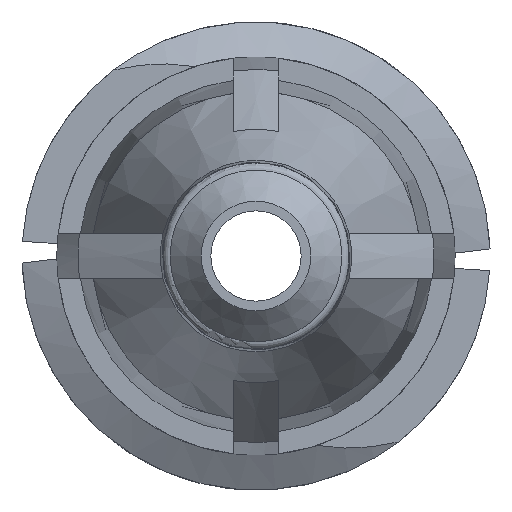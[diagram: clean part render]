
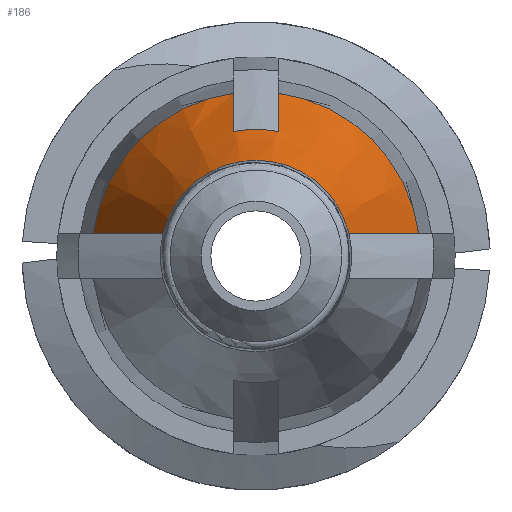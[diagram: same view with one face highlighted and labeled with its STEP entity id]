
A CAD part, front view. The second image highlights one B-rep face of the part: STEP entity #186.
In plain terms, the highlighted conical face has half-angle 20 degrees and reference radius 2.745 mm.
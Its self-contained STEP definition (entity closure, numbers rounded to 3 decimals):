
#3 = EDGE_CURVE ( 'NONE', #1640, #86, #1194, .T. ) ;
#22 = CARTESIAN_POINT ( 'NONE',  ( 0.381, -12.038, 2.082 ) ) ;
#55 = CIRCLE ( 'NONE', #841, 2.745 ) ;
#77 = ORIENTED_EDGE ( 'NONE', *, *, #696, .T. ) ;
#86 = VERTEX_POINT ( 'NONE', #22 ) ;
#90 = ORIENTED_EDGE ( 'NONE', *, *, #491, .T. ) ;
#178 = DIRECTION ( 'NONE',  ( 1., 0., 0. ) ) ;
#186 = ADVANCED_FACE ( 'NONE', ( #1937 ), #1730, .T. ) ;
#194 = DIRECTION ( 'NONE',  ( 0., -1., 0. ) ) ;
#255 = CARTESIAN_POINT ( 'NONE',  ( -2.719, -10.312, 0.381 ) ) ;
#268 = VERTEX_POINT ( 'NONE', #1324 ) ;
#283 = VERTEX_POINT ( 'NONE', #917 ) ;
#305 = CARTESIAN_POINT ( 'NONE',  ( -2.333, -11.362, 0.381 ) ) ;
#329 = ORIENTED_EDGE ( 'NONE', *, *, #1868, .T. ) ;
#359 = CIRCLE ( 'NONE', #635, 1.6 ) ;
#491 = EDGE_CURVE ( 'NONE', #851, #268, #1405, .T. ) ;
#509 = AXIS2_PLACEMENT_3D ( 'NONE', #699, #1826, #1042 ) ;
#548 = EDGE_LOOP ( 'NONE', ( #1920, #643, #777, #77, #919, #1190, #90, #329 ) ) ;
#549 = CARTESIAN_POINT ( 'NONE',  ( -0.381, -10.312, 2.719 ) ) ;
#576 = EDGE_CURVE ( 'NONE', #1640, #283, #867, .T. ) ;
#604 = CARTESIAN_POINT ( 'NONE',  ( 0.381, -10.312, 2.719 ) ) ;
#635 = AXIS2_PLACEMENT_3D ( 'NONE', #829, #1470, #703 ) ;
#637 = CARTESIAN_POINT ( 'NONE',  ( -0.381, -10.312, 2.719 ) ) ;
#639 = CARTESIAN_POINT ( 'NONE',  ( -0.381, -12.038, 2.082 ) ) ;
#643 = ORIENTED_EDGE ( 'NONE', *, *, #576, .F. ) ;
#662 = CARTESIAN_POINT ( 'NONE',  ( -2.719, -10.312, 0.381 ) ) ;
#696 = EDGE_CURVE ( 'NONE', #86, #1517, #1716, .T. ) ;
#699 = CARTESIAN_POINT ( 'NONE',  ( 0., -10.312, 0. ) ) ;
#703 = DIRECTION ( 'NONE',  ( 1., 0., 0. ) ) ;
#776 = CARTESIAN_POINT ( 'NONE',  ( -1.947, -12.411, 0.381 ) ) ;
#777 = ORIENTED_EDGE ( 'NONE', *, *, #3, .T. ) ;
#817 = CARTESIAN_POINT ( 'NONE',  ( -0.381, -12.038, 2.082 ) ) ;
#820 = CARTESIAN_POINT ( 'NONE',  ( 0.381, -10.312, 2.719 ) ) ;
#829 = CARTESIAN_POINT ( 'NONE',  ( 0., -13.458, 0. ) ) ;
#837 = CARTESIAN_POINT ( 'NONE',  ( 2.333, -11.362, 0.381 ) ) ;
#841 = AXIS2_PLACEMENT_3D ( 'NONE', #1519, #1677, #1040 ) ;
#851 = VERTEX_POINT ( 'NONE', #255 ) ;
#867 = CIRCLE ( 'NONE', #509, 2.745 ) ;
#917 = CARTESIAN_POINT ( 'NONE',  ( 2.719, -10.312, 0.381 ) ) ;
#919 = ORIENTED_EDGE ( 'NONE', *, *, #1759, .T. ) ;
#1016 = CARTESIAN_POINT ( 'NONE',  ( 0., -10.312, 0. ) ) ;
#1038 = AXIS2_PLACEMENT_3D ( 'NONE', #1016, #1633, #178 ) ;
#1040 = DIRECTION ( 'NONE',  ( 1., 0., 0. ) ) ;
#1042 = DIRECTION ( 'NONE',  ( 1., 0., 0. ) ) ;
#1167 = EDGE_CURVE ( 'NONE', #283, #1454, #1695, .T. ) ;
#1181 = CARTESIAN_POINT ( 'NONE',  ( 0., -12.038, 0. ) ) ;
#1190 = ORIENTED_EDGE ( 'NONE', *, *, #1538, .F. ) ;
#1194 = B_SPLINE_CURVE_WITH_KNOTS ( 'NONE', 3,
 ( #820, #1979, #1637, #1626 ),
 .UNSPECIFIED., .F., .F.,
 ( 4, 4 ),
 ( 0.003, 0.005 ),
 .UNSPECIFIED. ) ;
#1262 = B_SPLINE_CURVE_WITH_KNOTS ( 'NONE', 3,
 ( #817, #1925, #2091, #637 ),
 .UNSPECIFIED., .F., .F.,
 ( 4, 4 ),
 ( 0.002, 0.004 ),
 .UNSPECIFIED. ) ;
#1296 = CARTESIAN_POINT ( 'NONE',  ( 2.719, -10.312, 0.381 ) ) ;
#1303 = CARTESIAN_POINT ( 'NONE',  ( -1.554, -13.458, 0.381 ) ) ;
#1324 = CARTESIAN_POINT ( 'NONE',  ( -1.554, -13.458, 0.381 ) ) ;
#1361 = DIRECTION ( 'NONE',  ( -1., 0., 0. ) ) ;
#1405 = B_SPLINE_CURVE_WITH_KNOTS ( 'NONE', 3,
 ( #662, #305, #776, #1303 ),
 .UNSPECIFIED., .F., .F.,
 ( 4, 4 ),
 ( 0.003, 0.007 ),
 .UNSPECIFIED. ) ;
#1454 = VERTEX_POINT ( 'NONE', #1781 ) ;
#1470 = DIRECTION ( 'NONE',  ( 0., 1., 0. ) ) ;
#1517 = VERTEX_POINT ( 'NONE', #639 ) ;
#1519 = CARTESIAN_POINT ( 'NONE',  ( 0., -10.312, 0. ) ) ;
#1538 = EDGE_CURVE ( 'NONE', #851, #1616, #55, .T. ) ;
#1616 = VERTEX_POINT ( 'NONE', #549 ) ;
#1621 = CARTESIAN_POINT ( 'NONE',  ( 1.947, -12.411, 0.381 ) ) ;
#1626 = CARTESIAN_POINT ( 'NONE',  ( 0.381, -12.038, 2.082 ) ) ;
#1633 = DIRECTION ( 'NONE',  ( 0., 1., 0. ) ) ;
#1637 = CARTESIAN_POINT ( 'NONE',  ( 0.381, -11.463, 2.295 ) ) ;
#1640 = VERTEX_POINT ( 'NONE', #604 ) ;
#1677 = DIRECTION ( 'NONE',  ( 0., 1., 0. ) ) ;
#1695 = B_SPLINE_CURVE_WITH_KNOTS ( 'NONE', 3,
 ( #1296, #837, #1621, #2098 ),
 .UNSPECIFIED., .F., .F.,
 ( 4, 4 ),
 ( 0.003, 0.007 ),
 .UNSPECIFIED. ) ;
#1716 = CIRCLE ( 'NONE', #1783, 2.117 ) ;
#1730 = CONICAL_SURFACE ( 'NONE', #1038, 2.745, 0.349 ) ;
#1759 = EDGE_CURVE ( 'NONE', #1517, #1616, #1262, .T. ) ;
#1781 = CARTESIAN_POINT ( 'NONE',  ( 1.554, -13.458, 0.381 ) ) ;
#1783 = AXIS2_PLACEMENT_3D ( 'NONE', #1181, #194, #1361 ) ;
#1826 = DIRECTION ( 'NONE',  ( 0., 1., 0. ) ) ;
#1868 = EDGE_CURVE ( 'NONE', #268, #1454, #359, .T. ) ;
#1920 = ORIENTED_EDGE ( 'NONE', *, *, #1167, .F. ) ;
#1925 = CARTESIAN_POINT ( 'NONE',  ( -0.381, -11.463, 2.295 ) ) ;
#1937 = FACE_OUTER_BOUND ( 'NONE', #548, .T. ) ;
#1979 = CARTESIAN_POINT ( 'NONE',  ( 0.381, -10.888, 2.507 ) ) ;
#2091 = CARTESIAN_POINT ( 'NONE',  ( -0.381, -10.888, 2.507 ) ) ;
#2098 = CARTESIAN_POINT ( 'NONE',  ( 1.554, -13.458, 0.381 ) ) ;
